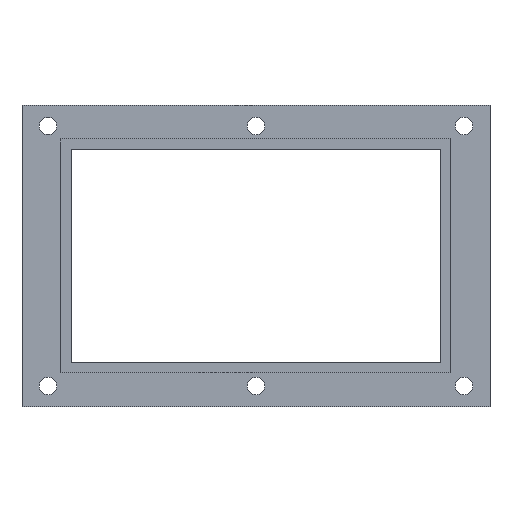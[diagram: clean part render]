
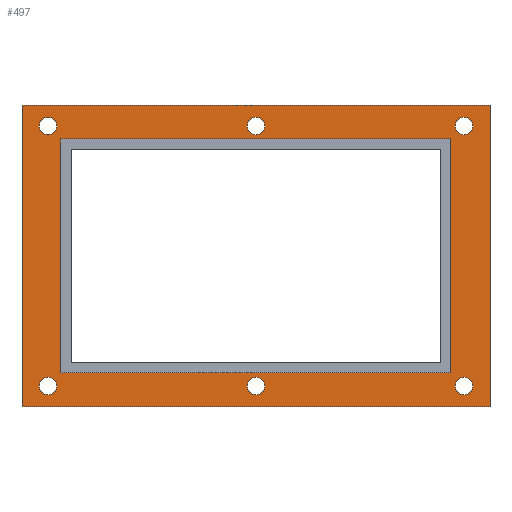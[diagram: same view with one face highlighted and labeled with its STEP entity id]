
A CAD part, top view. The second image highlights one B-rep face of the part: STEP entity #497.
In plain terms, the highlighted planar face has unit normal (0, 0, 1).
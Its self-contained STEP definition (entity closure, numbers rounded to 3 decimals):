
#22=FACE_BOUND('',#103,.T.);
#23=FACE_BOUND('',#104,.T.);
#24=FACE_BOUND('',#105,.T.);
#25=FACE_BOUND('',#106,.T.);
#26=FACE_BOUND('',#107,.T.);
#27=FACE_BOUND('',#108,.T.);
#28=FACE_BOUND('',#109,.T.);
#35=PLANE('',#565);
#68=FACE_OUTER_BOUND('',#102,.T.);
#102=EDGE_LOOP('',(#420,#421,#422,#423));
#103=EDGE_LOOP('',(#424));
#104=EDGE_LOOP('',(#425));
#105=EDGE_LOOP('',(#426));
#106=EDGE_LOOP('',(#427));
#107=EDGE_LOOP('',(#428));
#108=EDGE_LOOP('',(#429));
#109=EDGE_LOOP('',(#430,#431,#432,#433));
#148=LINE('',#812,#196);
#149=LINE('',#814,#197);
#150=LINE('',#816,#198);
#151=LINE('',#817,#199);
#152=LINE('',#820,#200);
#153=LINE('',#822,#201);
#154=LINE('',#824,#202);
#155=LINE('',#825,#203);
#196=VECTOR('',#677,1000.);
#197=VECTOR('',#678,1000.);
#198=VECTOR('',#679,1000.);
#199=VECTOR('',#680,1000.);
#200=VECTOR('',#681,1000.);
#201=VECTOR('',#682,1000.);
#202=VECTOR('',#683,1000.);
#203=VECTOR('',#684,1000.);
#218=CIRCLE('',#534,1.7);
#221=CIRCLE('',#539,1.7);
#224=CIRCLE('',#544,1.7);
#227=CIRCLE('',#549,1.7);
#230=CIRCLE('',#554,1.7);
#233=CIRCLE('',#559,1.7);
#236=VERTEX_POINT('',#723);
#239=VERTEX_POINT('',#733);
#242=VERTEX_POINT('',#743);
#245=VERTEX_POINT('',#753);
#248=VERTEX_POINT('',#763);
#251=VERTEX_POINT('',#773);
#264=VERTEX_POINT('',#810);
#265=VERTEX_POINT('',#811);
#266=VERTEX_POINT('',#813);
#267=VERTEX_POINT('',#815);
#268=VERTEX_POINT('',#818);
#269=VERTEX_POINT('',#819);
#270=VERTEX_POINT('',#821);
#271=VERTEX_POINT('',#823);
#279=EDGE_CURVE('',#236,#236,#218,.T.);
#284=EDGE_CURVE('',#239,#239,#221,.T.);
#289=EDGE_CURVE('',#242,#242,#224,.T.);
#294=EDGE_CURVE('',#245,#245,#227,.T.);
#299=EDGE_CURVE('',#248,#248,#230,.T.);
#304=EDGE_CURVE('',#251,#251,#233,.T.);
#322=EDGE_CURVE('',#264,#265,#148,.T.);
#323=EDGE_CURVE('',#265,#266,#149,.T.);
#324=EDGE_CURVE('',#266,#267,#150,.T.);
#325=EDGE_CURVE('',#267,#264,#151,.T.);
#326=EDGE_CURVE('',#268,#269,#152,.T.);
#327=EDGE_CURVE('',#270,#268,#153,.T.);
#328=EDGE_CURVE('',#271,#270,#154,.T.);
#329=EDGE_CURVE('',#269,#271,#155,.T.);
#420=ORIENTED_EDGE('',*,*,#322,.T.);
#421=ORIENTED_EDGE('',*,*,#323,.T.);
#422=ORIENTED_EDGE('',*,*,#324,.T.);
#423=ORIENTED_EDGE('',*,*,#325,.T.);
#424=ORIENTED_EDGE('',*,*,#279,.F.);
#425=ORIENTED_EDGE('',*,*,#284,.F.);
#426=ORIENTED_EDGE('',*,*,#289,.F.);
#427=ORIENTED_EDGE('',*,*,#294,.F.);
#428=ORIENTED_EDGE('',*,*,#299,.F.);
#429=ORIENTED_EDGE('',*,*,#304,.F.);
#430=ORIENTED_EDGE('',*,*,#326,.F.);
#431=ORIENTED_EDGE('',*,*,#327,.F.);
#432=ORIENTED_EDGE('',*,*,#328,.F.);
#433=ORIENTED_EDGE('',*,*,#329,.F.);
#497=ADVANCED_FACE('',(#68,#22,#23,#24,#25,#26,#27,#28),#35,.T.);
#534=AXIS2_PLACEMENT_3D('',#724,#586,#587);
#539=AXIS2_PLACEMENT_3D('',#734,#598,#599);
#544=AXIS2_PLACEMENT_3D('',#744,#610,#611);
#549=AXIS2_PLACEMENT_3D('',#754,#622,#623);
#554=AXIS2_PLACEMENT_3D('',#764,#634,#635);
#559=AXIS2_PLACEMENT_3D('',#774,#646,#647);
#565=AXIS2_PLACEMENT_3D('',#809,#675,#676);
#586=DIRECTION('center_axis',(0.,0.,1.));
#587=DIRECTION('ref_axis',(1.,0.,0.));
#598=DIRECTION('center_axis',(0.,0.,1.));
#599=DIRECTION('ref_axis',(1.,0.,0.));
#610=DIRECTION('center_axis',(0.,0.,1.));
#611=DIRECTION('ref_axis',(1.,0.,0.));
#622=DIRECTION('center_axis',(0.,0.,1.));
#623=DIRECTION('ref_axis',(1.,0.,0.));
#634=DIRECTION('center_axis',(0.,0.,1.));
#635=DIRECTION('ref_axis',(1.,0.,0.));
#646=DIRECTION('center_axis',(0.,0.,1.));
#647=DIRECTION('ref_axis',(1.,0.,0.));
#675=DIRECTION('center_axis',(0.,0.,1.));
#676=DIRECTION('ref_axis',(1.,0.,0.));
#677=DIRECTION('',(0.,1.,0.));
#678=DIRECTION('',(-1.,0.,0.));
#679=DIRECTION('',(0.,-1.,0.));
#680=DIRECTION('',(1.,0.,0.));
#681=DIRECTION('',(0.,-1.,0.));
#682=DIRECTION('',(-1.,0.,0.));
#683=DIRECTION('',(0.,1.,0.));
#684=DIRECTION('',(1.,0.,0.));
#723=CARTESIAN_POINT('',(41.7,25.,2.));
#724=CARTESIAN_POINT('Origin',(40.,25.,2.));
#733=CARTESIAN_POINT('',(1.7,25.,2.));
#734=CARTESIAN_POINT('Origin',(0.,25.,2.));
#743=CARTESIAN_POINT('',(-38.3,25.,2.));
#744=CARTESIAN_POINT('Origin',(-40.,25.,2.));
#753=CARTESIAN_POINT('',(1.7,-25.,2.));
#754=CARTESIAN_POINT('Origin',(0.,-25.,2.));
#763=CARTESIAN_POINT('',(-38.3,-25.,2.));
#764=CARTESIAN_POINT('Origin',(-40.,-25.,2.));
#773=CARTESIAN_POINT('',(41.7,-25.,2.));
#774=CARTESIAN_POINT('Origin',(40.,-25.,2.));
#809=CARTESIAN_POINT('Origin',(0.,0.,2.));
#810=CARTESIAN_POINT('',(45.,-29.,2.));
#811=CARTESIAN_POINT('',(45.,29.,2.));
#812=CARTESIAN_POINT('',(45.,29.,2.));
#813=CARTESIAN_POINT('',(-45.,29.,2.));
#814=CARTESIAN_POINT('',(-45.,29.,2.));
#815=CARTESIAN_POINT('',(-45.,-29.,2.));
#816=CARTESIAN_POINT('',(-45.,29.,2.));
#817=CARTESIAN_POINT('',(-45.,-29.,2.));
#818=CARTESIAN_POINT('',(-37.5,22.5,2.));
#819=CARTESIAN_POINT('',(-37.5,-22.5,2.));
#820=CARTESIAN_POINT('',(-37.5,-22.5,2.));
#821=CARTESIAN_POINT('',(37.5,22.5,2.));
#822=CARTESIAN_POINT('',(37.5,22.5,2.));
#823=CARTESIAN_POINT('',(37.5,-22.5,2.));
#824=CARTESIAN_POINT('',(37.5,-22.5,2.));
#825=CARTESIAN_POINT('',(37.5,-22.5,2.));
